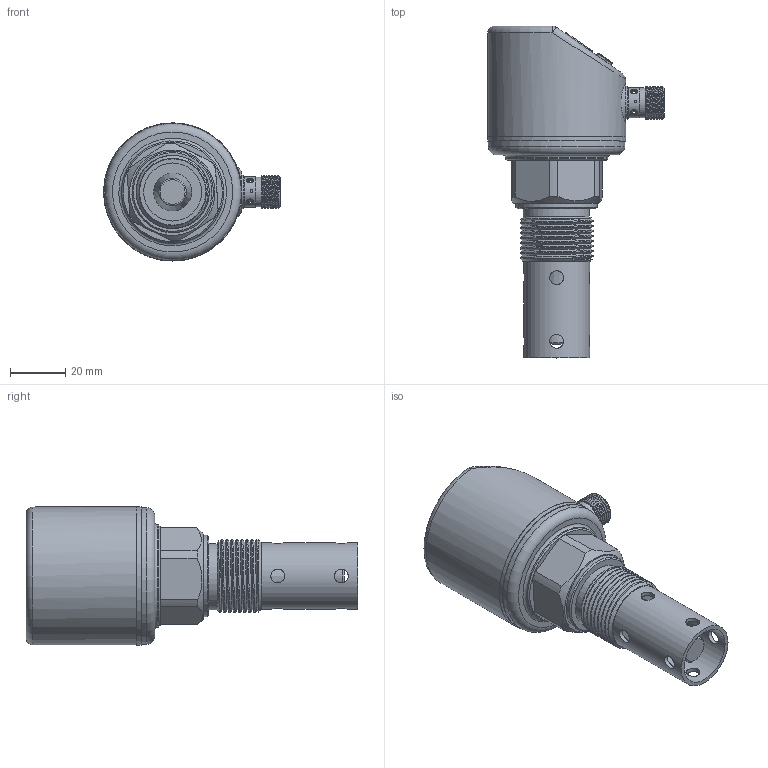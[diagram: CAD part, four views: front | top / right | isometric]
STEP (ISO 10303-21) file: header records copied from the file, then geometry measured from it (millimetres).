
FILE_DESCRIPTION (( 'STEP AP214' ), '1' );
FILE_NAME ('3-4数显电容-30（同轴）.STEP', '2025-03-11T06:15:20', ( '' ), ( '' ), 'SwSTEP 2.0', 'SolidWorks 2020', '' );
FILE_SCHEMA (( 'AUTOMOTIVE_DESIGN' ));
Length unit declared in the file: millimetre
Products named in the file (9): 揤薯珆尨欶; 偌瑩簽; 抻芛ㄗ蟀哿講ㄘ; 3-4数显电容-30（同轴）; PVC躇猾菜; 肮粣奪; 恦謫抻芛5; 揤薯奻裔; 滅阨諉芛褲极1
Assembly tree (10 placements, depth 2):
  3-4数显电容-30（同轴）
    揤薯奻裔
    揤薯珆尨欶
    滅阨諉芛褲极1
    偌瑩簽  x3
    PVC躇猾菜
    恦謫抻芛5
    抻芛ㄗ蟀哿講ㄘ
    肮粣奪
Bounding box: 64 x 120.1 x 50 mm (x, y, z)
Volume: 43910.5 mm3; surface area: 39141.8 mm2
Topology: 10 solids, 10 shells, 318 faces, 752 edges, 486 vertices
Faces by surface type: plane 128, cylinder 118, cone 44, bspline 13, torus 11, sphere 4
Full cylindrical faces by diameter (mm): 1 x4, 1.2 x3, 1.8 x1, 2 x3, 2.5 x6, 2.8 x1, 4.3 x3, 4.5 x6, 5 x8, 6 x1, 7.2 x1, 8 x1, 8.5 x1, 9.75 x1, 10 x1, 10.49 x1, 10.5 x1, 10.8 x1, 10.9 x1, 11 x2, 12 x1, 21 x2, 24 x2, 29.5 x1, 35 x1, 37 x1, 43.9 x1, 45.4 x1, 45.6 x2, 48 x3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
Entity records: 14721 total; most frequent: CARTESIAN_POINT 7955, DIRECTION 1314, ORIENTED_EDGE 1104, EDGE_CURVE 552, AXIS2_PLACEMENT_3D 536, EDGE_LOOP 479, VERTEX_POINT 411, FACE_OUTER_BOUND 359
